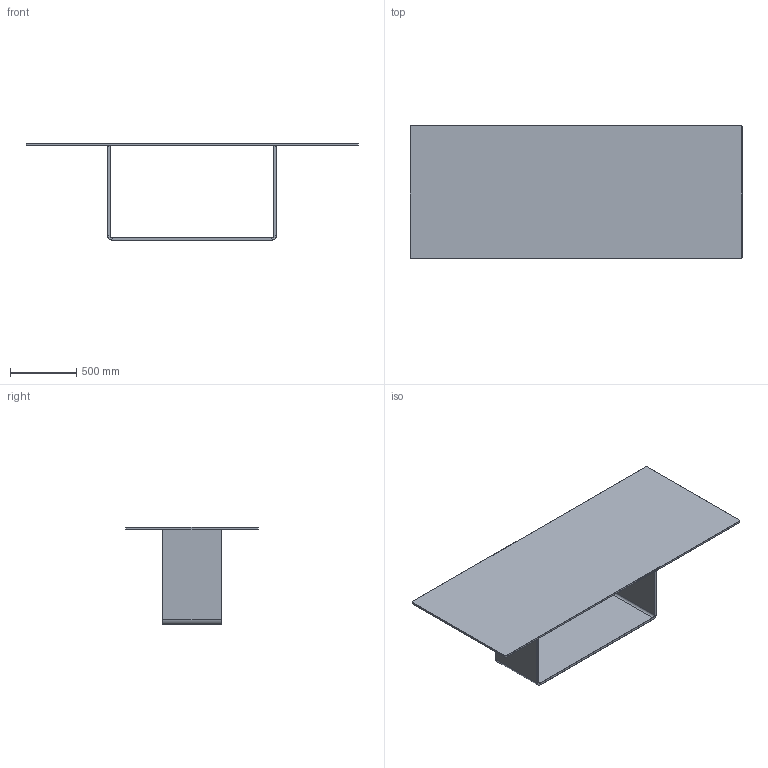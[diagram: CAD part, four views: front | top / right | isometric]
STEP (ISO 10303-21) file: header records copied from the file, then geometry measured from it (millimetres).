
FILE_DESCRIPTION((''),'2;1');
FILE_NAME('C:\AutodeskVault\AreaLavoro\Progetti\SoVeT Italia\1. Tavoli_Dining tables\Valencia\Valencia\Web file\Valencia Web\P1532.stp','2012-04-27T17:03:09',('Gianluca'),('So.Ve.T. s.r.l.'),'Autodesk Inventor 2011','Autodesk Inventor 2011','IL PROGETTO E'' DI ESCLUSIVA PROPRIETA'' DELLA SO.VE.T. srl. E'' VIETATA OGNI RIPRODUZIONE TOTALE O PARZIALE EQUALSIASI UTILIZZO NON AUTORIZZATO.');
FILE_SCHEMA(('AUTOMOTIVE_DESIGN { 1 0 10303 214 1 1 1 1 }'));
Length unit declared in the file: millimetre
Products named in the file (1): P1532 Contorno semplificato
Bounding box: 2500 x 1000 x 735.8 mm (x, y, z)
Volume: 60622036.1 mm3; surface area: 7537613.2 mm2
Topology: 2 solids, 2 shells, 98 faces, 202 edges, 112 vertices
Faces by surface type: plane 58, cone 24, cylinder 16
Full cylindrical faces by diameter (mm): 48 x4
Entity records: 2640 total; most frequent: DIRECTION 452, CARTESIAN_POINT 409, ORIENTED_EDGE 396, EDGE_CURVE 198, AXIS2_PLACEMENT_3D 155, VECTOR 142, LINE 142, VERTEX_POINT 112
